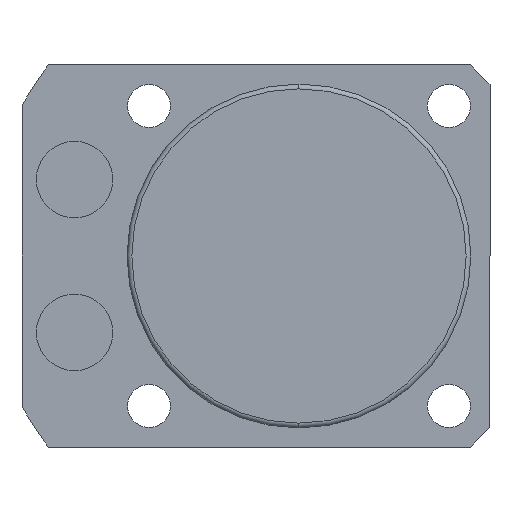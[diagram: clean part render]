
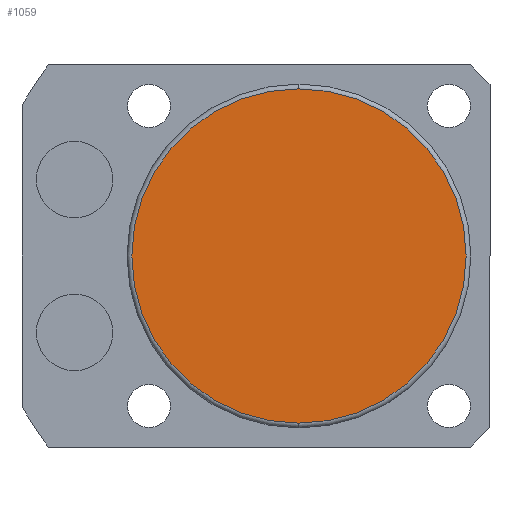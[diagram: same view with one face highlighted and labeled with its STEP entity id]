
A CAD part, front view. The second image highlights one B-rep face of the part: STEP entity #1059.
In plain terms, the highlighted planar face has unit normal (0, -1, 0).
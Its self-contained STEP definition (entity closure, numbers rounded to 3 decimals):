
#59 = AXIS2_PLACEMENT_3D ( 'NONE', #1934, #218, #243 ) ;
#116 = DIRECTION ( 'NONE',  ( 0., 0., -1. ) ) ;
#218 = DIRECTION ( 'NONE',  ( 0., -1., 0. ) ) ;
#243 = DIRECTION ( 'NONE',  ( 0., 0., -1. ) ) ;
#278 = CARTESIAN_POINT ( 'NONE',  ( 0., -125.5, 0. ) ) ;
#465 = DIRECTION ( 'NONE',  ( 0., -1., 0. ) ) ;
#524 = EDGE_CURVE ( 'NONE', #2295, #1960, #2327, .T. ) ;
#705 = FACE_OUTER_BOUND ( 'NONE', #2137, .T. ) ;
#924 = CARTESIAN_POINT ( 'NONE',  ( 0., -125.5, 0. ) ) ;
#1059 = ADVANCED_FACE ( 'NONE', ( #705 ), #1419, .T. ) ;
#1419 = PLANE ( 'NONE',  #1884 ) ;
#1494 = ORIENTED_EDGE ( 'NONE', *, *, #1526, .T. ) ;
#1526 = EDGE_CURVE ( 'NONE', #1960, #2295, #2299, .T. ) ;
#1606 = DIRECTION ( 'NONE',  ( 0., 0., -1. ) ) ;
#1661 = DIRECTION ( 'NONE',  ( 0., -1., 0. ) ) ;
#1884 = AXIS2_PLACEMENT_3D ( 'NONE', #278, #465, #1606 ) ;
#1923 = ORIENTED_EDGE ( 'NONE', *, *, #524, .T. ) ;
#1934 = CARTESIAN_POINT ( 'NONE',  ( 0., -125.5, 0. ) ) ;
#1960 = VERTEX_POINT ( 'NONE', #2108 ) ;
#2075 = CARTESIAN_POINT ( 'NONE',  ( 0., -125.5, -17.5 ) ) ;
#2108 = CARTESIAN_POINT ( 'NONE',  ( 0., -125.5, 17.5 ) ) ;
#2137 = EDGE_LOOP ( 'NONE', ( #1923, #1494 ) ) ;
#2295 = VERTEX_POINT ( 'NONE', #2075 ) ;
#2299 = CIRCLE ( 'NONE', #59, 17.5 ) ;
#2327 = CIRCLE ( 'NONE', #2379, 17.5 ) ;
#2379 = AXIS2_PLACEMENT_3D ( 'NONE', #924, #1661, #116 ) ;
